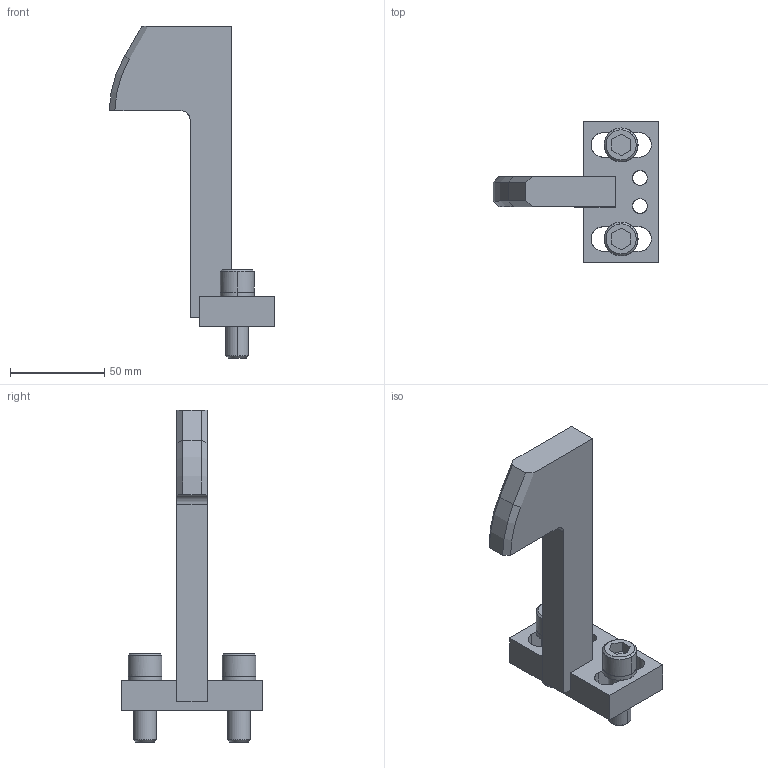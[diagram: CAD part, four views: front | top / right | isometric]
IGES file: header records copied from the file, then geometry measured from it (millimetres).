
Global section: file name: E:\UnigraphicsGraphicData\MISUMI_PRESS-PARTS\IGES\3d_ngwsa-160-30-s65-x43-y115-m12_01618_r00.igs; native system: NX V5.0; preprocessor: UGS NX IGES V5.0; author: MISUMI; date: 20110105.162124; units: millimetre
Bounding box: 87.99 x 75 x 176.5 mm (x, y, z)
Surface area: 35119.8 mm2 (no closed solid volume)
Topology: 0 solids, 0 shells, 104 faces, 671 edges, 671 vertices
Faces by surface type: bspline 104
